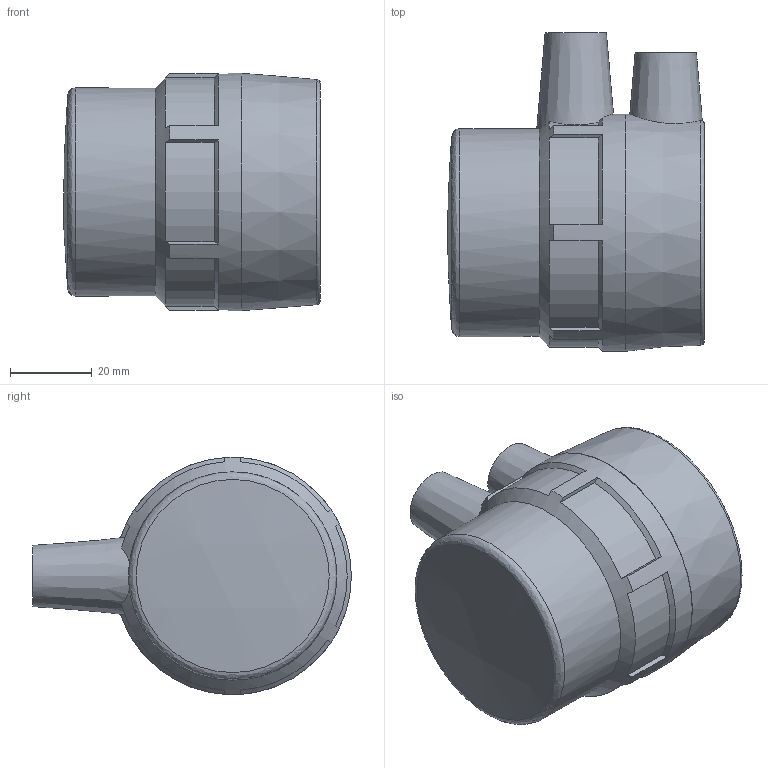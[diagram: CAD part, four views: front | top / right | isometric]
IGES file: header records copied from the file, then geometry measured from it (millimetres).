
Global section: file name: 498304040.ipt; native system: Autodesk Inventor 2015; preprocessor: unknown; author: KIM; date: 20171106.094443; units: millimetre
Bounding box: 62.88 x 78.07 x 58.14 mm (x, y, z)
Volume: 86658.2 mm3; surface area: 25262 mm2
Topology: 1 solids, 1 shells, 60 faces, 162 edges, 110 vertices
Faces by surface type: plane 21, revolution 16, cylinder 11, cone 11, sphere 1
Full cylindrical faces by diameter (mm): 4 x2, 51 x1, 58.14 x1
